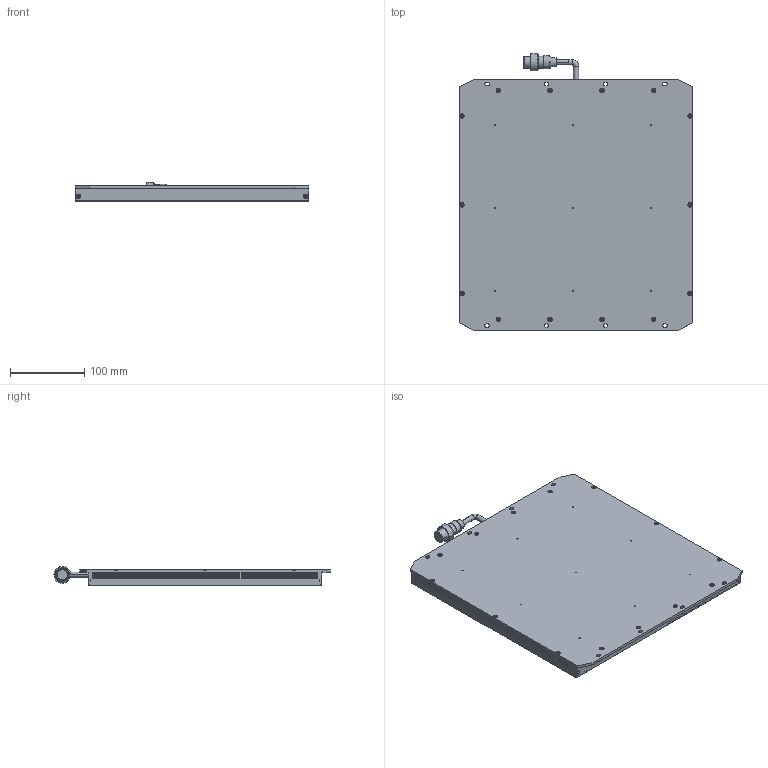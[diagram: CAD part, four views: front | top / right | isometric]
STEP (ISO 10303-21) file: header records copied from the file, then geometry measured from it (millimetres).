
FILE_DESCRIPTION((''),'2;1');
FILE_NAME('PRT0001','2022-11-04T18:18:50',('lizhoupeng'),(''),'CREO PARAMETRIC BY PTC INC, 2020044','CREO PARAMETRIC BY PTC INC, 2020044','');
FILE_SCHEMA(('CONFIG_CONTROL_DESIGN'));
Products named in the file (1): PRT0001
Bounding box: 315 x 372.75 x 25.75 mm (x, y, z)
Volume: 2115826.4 mm3; surface area: 265315.1 mm2
Topology: 2 solids, 82 shells, 2213 faces, 5217 edges, 3162 vertices
Faces by surface type: plane 1234, cylinder 533, cone 222, extrusion 146, torus 74, bspline 4
Entity records: 64071 total; most frequent: CARTESIAN_POINT 13955, ORIENTED_EDGE 10302, DIRECTION 10084, EDGE_CURVE 5151, VECTOR 3436, AXIS2_PLACEMENT_3D 3324, LINE 3290, VERTEX_POINT 3162
